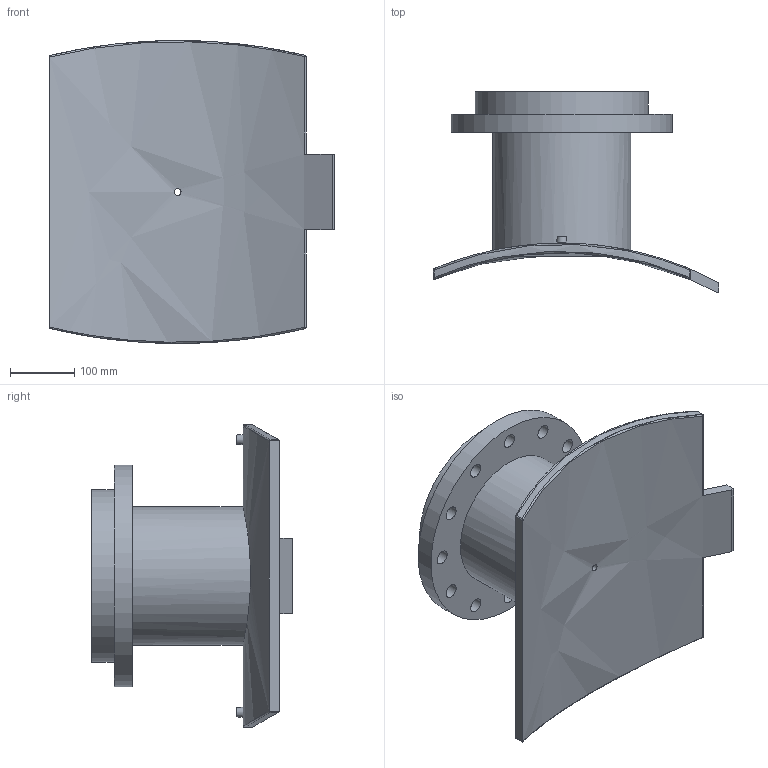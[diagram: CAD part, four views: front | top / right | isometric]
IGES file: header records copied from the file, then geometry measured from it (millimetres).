
Global section: file name: 4959031000200T; native system: Autodesk Inventor 2019; preprocessor: unknown; author: KIM; date: 20240403.210300; units: millimetre
Bounding box: 443 x 311.28 x 469.59 mm (x, y, z)
Volume: 8718916.9 mm3; surface area: 854976.7 mm2
Topology: 1 solids, 1 shells, 63 faces, 166 edges, 128 vertices
Faces by surface type: bspline 63
